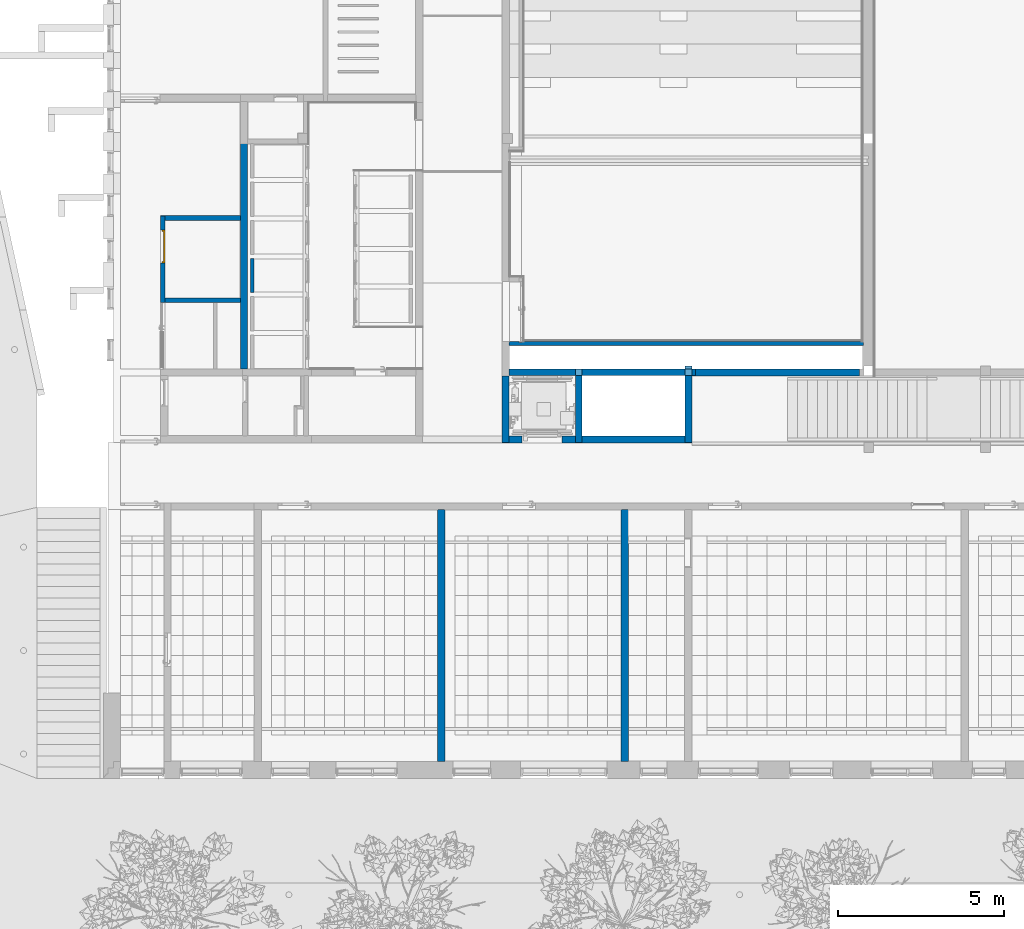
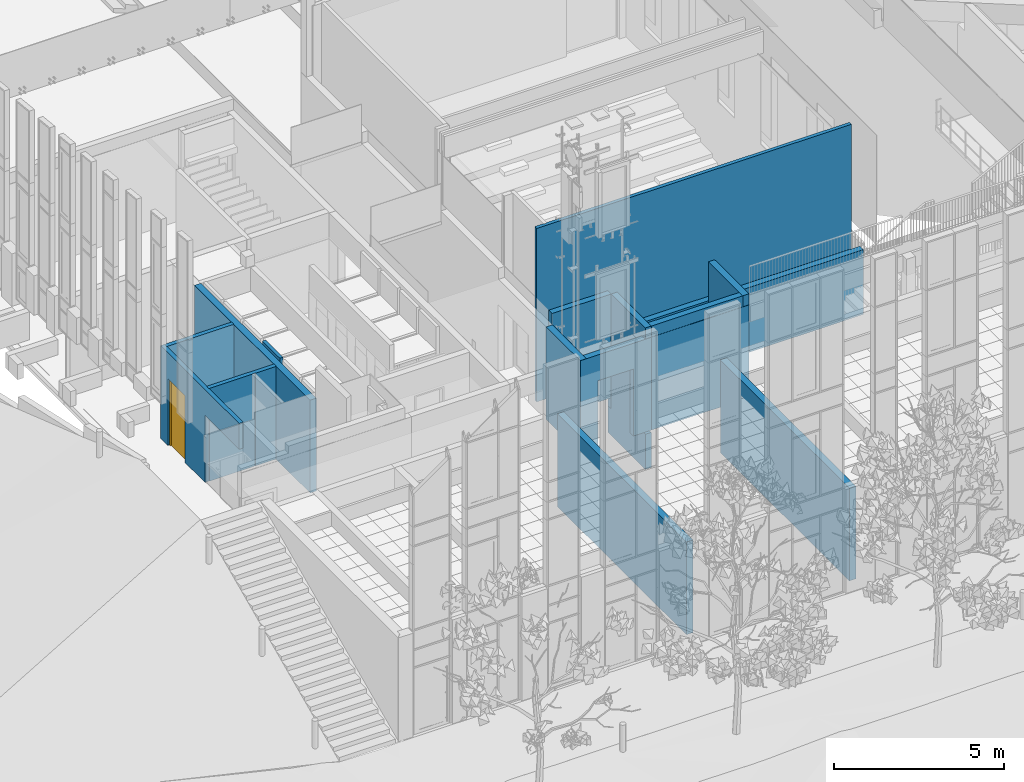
# One storey, part 118 of 246: 16 walls, 1 door, 3 openings.
"""IFC2X3 building model written with IfcOpenShell, lengths in millimetres."""

import ifcopenshell
import ifcopenshell.guid

model = None  # the IFC model being written
_history = None  # IfcOwnerHistory: only IFC2X3 demands one
_inside = {}  # id of a spatial element -> (the spatial element, [elements in it])
_under = {}  # id of a project, library or spatial element -> (it, [spatial elements below it])
_declared = {}  # id of a project -> (the project, [libraries it declares])
_typed = {}  # id of a type object -> (the type object, [elements of that type])
_made_of = {}  # id of a material, layer set ... -> (it, [elements and type objects made of it])


def new_model(schema):
    """Start an empty IFC model of exactly this schema.

    Asked for "IFC4X3", IfcOpenShell would pick the latest addendum, in which some entities
    have other attributes; the version numbers below select the first issue.
    IFC2X3 requires an IfcOwnerHistory on every rooted entity: one is made here for all.
    """
    global model, _history
    if schema == "IFC4X3":
        model = ifcopenshell.file(schema_version=(4, 3, 0, 0))
    else:
        model = ifcopenshell.file(schema=schema)
    _inside.clear()
    _under.clear()
    _declared.clear()
    _typed.clear()
    _made_of.clear()
    _history = None
    if model.schema == "IFC2X3":
        org = make("IfcOrganization", Name="unknown")
        user = make(
            "IfcPersonAndOrganization",
            ThePerson=make("IfcPerson", FamilyName="unknown"),
            TheOrganization=org,
        )
        app = make(
            "IfcApplication",
            ApplicationDeveloper=org,
            Version="unknown",
            ApplicationFullName="unknown",
            ApplicationIdentifier="unknown",
        )
        _history = make(
            "IfcOwnerHistory",
            OwningUser=user,
            OwningApplication=app,
            ChangeAction="ADDED",
            CreationDate=0,
        )
    return model


def make(cls, **values):
    """One entity of the class cls with the attributes given. An attribute that is None is left unset."""
    return model.create_entity(
        cls, **{name: value for name, value in values.items() if value is not None}
    )


def entity(cls, *values):
    """Any entity or typed value of the class cls, its attributes in the order of the schema. None: left unset."""
    e = model.create_entity(cls)
    for i, value in enumerate(values):
        if value is not None:
            e[i] = value
    return e


def rooted(cls, **values):
    """An entity with a GlobalId (a new one), such as an element, a storey or a relation."""
    return make(cls, GlobalId=ifcopenshell.guid.new(), OwnerHistory=_history, **values)


def si_unit(unit_type, name, prefix=None):
    """IfcSIUnit, for example si_unit("LENGTHUNIT", "METRE", prefix="MILLI")."""
    return make("IfcSIUnit", UnitType=unit_type, Prefix=prefix, Name=name)


def converted_unit(unit_type, name, factor, base, dimensions=None, offset=None):
    """IfcConversionBasedUnit, such as the inch: factor (a typed value) times the base unit."""
    return make(
        "IfcConversionBasedUnit"
        if offset is None
        else "IfcConversionBasedUnitWithOffset",
        ConversionOffset=offset,
        Dimensions=None
        if dimensions is None
        else entity("IfcDimensionalExponents", *dimensions),
        UnitType=unit_type,
        Name=name,
        ConversionFactor=make(
            "IfcMeasureWithUnit", ValueComponent=factor, UnitComponent=base
        ),
    )


def derived_unit(unit_type, elements):
    """IfcDerivedUnit: a product of units, each with its exponent."""
    return make(
        "IfcDerivedUnit",
        Elements=[
            make("IfcDerivedUnitElement", Unit=unit, Exponent=power)
            for unit, power in elements
        ],
        UnitType=unit_type,
    )


def money_unit(currency):
    """IfcMonetaryUnit."""
    return make("IfcMonetaryUnit", Currency=currency)


def assignment(units):
    """IfcUnitAssignment: the units of a project."""
    return None if units is None else make("IfcUnitAssignment", Units=units)


def point(xyz):
    """IfcCartesianPoint."""
    return None if xyz is None else make("IfcCartesianPoint", Coordinates=xyz)


def direction(xyz):
    """IfcDirection."""
    return None if xyz is None else make("IfcDirection", DirectionRatios=xyz)


def frame(location, z_axis=None, x_axis=None):
    """IfcAxis2Placement3D, a coordinate frame: its origin and axes. An axis left out is left unset."""
    return make(
        "IfcAxis2Placement3D",
        Location=point(location),
        Axis=direction(z_axis),
        RefDirection=direction(x_axis),
    )


def origin_with_axes():
    """The frame at (0, 0, 0) with the z axis (0, 0, 1) and the x axis (1, 0, 0) written out."""
    return frame((0.0, 0.0, 0.0), z_axis=(0.0, 0.0, 1.0), x_axis=(1.0, 0.0, 0.0))


def place(relative_to, where):
    """IfcLocalPlacement: puts the frame where relative to a parent placement (None: the world)."""
    return make(
        "IfcLocalPlacement", PlacementRelTo=relative_to, RelativePlacement=where
    )


def context(
    kind, dimensions, precision=None, world=None, true_north=None, identifier=None
):
    """IfcGeometricRepresentationContext, for example the 3D "Model" context."""
    return make(
        "IfcGeometricRepresentationContext",
        ContextIdentifier=identifier,
        ContextType=kind,
        CoordinateSpaceDimension=dimensions,
        Precision=precision,
        WorldCoordinateSystem=world,
        TrueNorth=true_north,
    )


def subcontext(parent, identifier, kind, view, scale=None):
    """IfcGeometricRepresentationSubContext, for example "Body" below "Model"."""
    return make(
        "IfcGeometricRepresentationSubContext",
        ContextIdentifier=identifier,
        ContextType=kind,
        ParentContext=parent,
        TargetScale=scale,
        TargetView=view,
    )


def project(units=None, contexts=None):
    """IfcProject with its units and contexts."""
    return rooted(
        "IfcProject",
        Name="project",
        RepresentationContexts=contexts,
        UnitsInContext=assignment(units),
    )


def spatial(cls, under=None, at=None, **own):
    """A site, building, storey or space (cls), placed at a placement, below another one or the project."""
    s = rooted(cls, ObjectPlacement=at, **own)
    if under is not None:
        _under.setdefault(under.id(), (under, []))[1].append(s)
    return s


def faces_of(points, faces, orient=None, outer=None):
    """IfcFace entities. A face is a list of loops; a loop is a list of indices into points, from 0.

    orient and outer hold one flag for each loop. By default every Orientation is true, the
    first loop of a face is its IfcFaceOuterBound and the others are IfcFaceBound.
    """
    made = []
    for i, loops in enumerate(faces):
        bounds = []
        for j, loop in enumerate(loops):
            is_outer = j == 0 if outer is None else outer[i][j]
            bounds.append(
                make(
                    "IfcFaceOuterBound" if is_outer else "IfcFaceBound",
                    Bound=make("IfcPolyLoop", Polygon=[points[k] for k in loop]),
                    Orientation=True if orient is None else orient[i][j],
                )
            )
        made.append(make("IfcFace", Bounds=bounds))
    return made


def faceted_brep(points, faces, orient=None, outer=None, voids=None):
    """IfcFacetedBrep: a solid bounded by flat faces; with voids (closed shells), ...WithVoids."""
    shared = [point(p) for p in points]
    hull = make("IfcClosedShell", CfsFaces=faces_of(shared, faces, orient, outer))
    if voids is None:
        return make("IfcFacetedBrep", Outer=hull)
    return make(
        "IfcFacetedBrepWithVoids",
        Outer=hull,
        Voids=[
            make(cls, CfsFaces=faces_of(shared, fs, o, b)) for cls, fs, o, b in voids
        ],
    )


def shape(context_of_items, identifier, shape_type, items):
    """IfcShapeRepresentation: the items that make up one representation, for example the "Body"."""
    return make(
        "IfcShapeRepresentation",
        ContextOfItems=context_of_items,
        RepresentationIdentifier=identifier,
        RepresentationType=shape_type,
        Items=items,
    )


def material(Name=None, Category=None):
    """IfcMaterial."""
    return make("IfcMaterial", Name=Name, Category=Category)


def material_list(materials):
    """IfcMaterialList."""
    return make("IfcMaterialList", Materials=materials)


def made_of(thing, what):
    """Note that an element or type object is made of a material, layer set ...; save() writes the relation."""
    if what is not None:
        _made_of.setdefault(what.id(), (what, []))[1].append(thing)
    return thing


def type_object(cls, material=None, **own):
    """A type object (cls), such as IfcWallType, which elements share."""
    return made_of(rooted(cls, **own), material)


def element(
    cls,
    number,
    at=None,
    inside=None,
    cuts=None,
    type_object=None,
    material=None,
    context=None,
    identifier="Body",
    shape_type=None,
    held_by="IfcProductDefinitionShape",
    body=None,
    shapes=None,
    **own,
):
    """One element of the class cls, such as IfcWall. Its Tag is "e" and its number.

    at: its placement. inside: the storey or other place that contains it. cuts: it is an
    opening in that element (IfcRelVoidsElement). A single representation is given by context,
    identifier, shape_type and body (its items); several are given by shapes. held_by: the class
    of the entity that holds the representations. save() writes the other relations.
    """
    e = rooted(cls, Tag="e%d" % number, ObjectPlacement=at, **own)
    if body is not None:
        shapes = [shape(context, identifier, shape_type, body)]
    if shapes is not None:
        e.Representation = make(held_by, Representations=shapes)
    if inside is not None:
        _inside.setdefault(inside.id(), (inside, []))[1].append(e)
    if cuts is not None:
        rooted(
            "IfcRelVoidsElement", RelatingBuildingElement=cuts, RelatedOpeningElement=e
        )
    if type_object is not None:
        _typed.setdefault(type_object.id(), (type_object, []))[1].append(e)
    return made_of(e, material)


def fill(opening, filler):
    """IfcRelFillsElement: the door or window that sits in an opening."""
    return rooted(
        "IfcRelFillsElement",
        RelatingOpeningElement=opening,
        RelatedBuildingElement=filler,
    )


def aggregate(whole, parts):
    """IfcRelAggregates: a whole, such as a stair, and the parts it consists of."""
    return rooted("IfcRelAggregates", RelatingObject=whole, RelatedObjects=parts)


def save(model, path):
    """Write the relations noted so far, then the file.

    IfcRelAggregates (storeys below a building ...), IfcRelContainedInSpatialStructure (elements
    in a storey), IfcRelDefinesByType, IfcRelAssociatesMaterial and IfcRelDeclares: one each for
    every whole, place, type object, material and project.
    """
    for whole, parts in _under.values():
        aggregate(whole, parts)
    for where, things in _inside.values():
        rooted(
            "IfcRelContainedInSpatialStructure",
            RelatedElements=things,
            RelatingStructure=where,
        )
    for kind, things in _typed.values():
        rooted("IfcRelDefinesByType", RelatedObjects=things, RelatingType=kind)
    for what, things in _made_of.values():
        rooted("IfcRelAssociatesMaterial", RelatedObjects=things, RelatingMaterial=what)
    for by, libraries in _declared.values():
        rooted("IfcRelDeclares", RelatingContext=by, RelatedDefinitions=libraries)
    model.write(path)


model = new_model("IFC2X3")

# Units and contexts
model_context = context("Model", 3, precision=0.01, world=origin_with_axes(), true_north=direction((0.0, 1.0)))
body_context = subcontext(model_context, "Body", "Model", "MODEL_VIEW")
ifc_project = project(units=[si_unit("LENGTHUNIT", "METRE", prefix="MILLI"), si_unit("AREAUNIT", "SQUARE_METRE"), si_unit("VOLUMEUNIT", "CUBIC_METRE"), converted_unit("PLANEANGLEUNIT", "DEGREE", entity("IfcPlaneAngleMeasure", 0.0174532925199), si_unit("PLANEANGLEUNIT", "RADIAN"), dimensions=[0, 0, 0, 0, 0, 0, 0]), si_unit("SOLIDANGLEUNIT", "STERADIAN"), money_unit("EUR"), converted_unit("TIMEUNIT", "Year", entity("IfcTimeMeasure", 31556926.0), si_unit("TIMEUNIT", "SECOND"), dimensions=[0, 0, 1, 0, 0, 0, 0]), si_unit("MASSUNIT", "GRAM", prefix="KILO"), si_unit("THERMODYNAMICTEMPERATUREUNIT", "DEGREE_CELSIUS"), si_unit("LUMINOUSINTENSITYUNIT", "LUMEN"), si_unit("ENERGYUNIT", "JOULE", prefix="MEGA"), derived_unit("THERMALCONDUCTANCEUNIT", [(si_unit("POWERUNIT", "WATT"), 1), (si_unit("LENGTHUNIT", "METRE"), -1), (si_unit("THERMODYNAMICTEMPERATUREUNIT", "KELVIN"), -1)]), derived_unit("SPECIFICHEATCAPACITYUNIT", [(si_unit("ENERGYUNIT", "JOULE"), 1), (si_unit("MASSUNIT", "GRAM", prefix="KILO"), -1), (si_unit("THERMODYNAMICTEMPERATUREUNIT", "KELVIN"), -1)]), derived_unit("MASSDENSITYUNIT", [(si_unit("MASSUNIT", "GRAM", prefix="KILO"), 1), (si_unit("VOLUMEUNIT", "CUBIC_METRE"), -1)])], contexts=[model_context])

# Site, building, storey
site_placement = place(None, origin_with_axes())
site = spatial("IfcSite", under=ifc_project, at=site_placement, Name="L.Koidula tn 11b", CompositionType="ELEMENT")
building_placement = place(site_placement, origin_with_axes())
building = spatial("IfcBuilding", under=site, at=building_placement, Name="Rakvere Riigigümnaasium", CompositionType="ELEMENT")
storey_placement = place(building_placement, origin_with_axes())
storey = spatial("IfcBuildingStorey", under=building, at=storey_placement, Name="1.korrus 0,00", CompositionType="ELEMENT", Elevation=0.0)

# Walls
ifc_material_1 = material(Name="Betoon element / plaat")
wall_type_1 = type_object("IfcWallType", Name="SS-01 200", PredefinedType="NOTDEFINED")
wall_1_placement = place(storey_placement, frame((52499.9999937, 17110.4555095, -395.0), z_axis=(0.0, 0.0, 1.0), x_axis=(-1.0, 0.0, 0.0)))
element("IfcWall", 1, at=wall_1_placement, inside=storey, type_object=wall_type_1, material=ifc_material_1, Name="Sisesein", context=body_context, shape_type="Brep", body=[
    faceted_brep([(0.0, -200.0, 395.0), (0.0, 0.0, 394.999999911), (0.0, 0.0, 0.0), (0.0, -200.000013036, 0.0), (-210.0, -200.0, 395.0), (-210.0, 0.0, 394.999999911), (3299.99999988, 0.0, 0.0), (-310.0, 0.0, 394.999999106), (-310.0, 0.0, 2720.0), (3299.99999988, 0.0, 2720.0), (3299.99999988, -200.0, 0.0), (3299.99999988, -200.0, 2720.0), (-310.0, -200.0, 2720.0), (-310.0, -200.0, 394.999999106)], [[[0, 1, 2, 3]], [[4, 5, 1, 0]], [[6, 2, 1, 5, 7, 8, 9]], [[10, 3, 2, 6]], [[0, 3, 10, 11, 12, 13, 4]], [[7, 5, 4, 13]], [[12, 8, 7, 13]], [[11, 9, 8, 12]], [[10, 6, 9, 11]]]),
])
wall_2_placement = place(storey_placement, frame((49399.9999937, 15100.4785302, -1350.0), z_axis=(0.0, 0.0, 1.0), x_axis=(0.0, 1.0, 0.0)))
element("IfcWall", 2, at=wall_2_placement, inside=storey, type_object=wall_type_1, material=ifc_material_1, Name="Sisesein", context=body_context, shape_type="Brep", body=[
    faceted_brep([(200.0, 0.0, 1340.0), (200.0, 0.0, 1260.0), (0.0, 0.0, 1260.0), (0.0, 0.0, 0.0), (2209.97698206, 0.0, 0.0), (2209.97698153, 0.0, 955.0), (2009.97697926, 0.0, 955.0), (2009.97697926, 0.0, 5070.0), (0.0, 0.0, 5070.0), (0.0, 0.0, 4940.0), (0.0, 0.0, 1350.0), (0.0, 0.0, 1340.0), (200.0, 200.0, 1260.0), (200.0, 200.0, 1340.0), (0.0, 200.0, 1260.0), (0.0, 200.0, 0.0), (2209.97698206, 200.0, 0.0), (2209.97698153, 199.999999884, 955.0), (2009.97697926, 199.999999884, 955.0), (2009.97697926, 199.999999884, 1350.0), (2009.97697926, 199.999999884, 5070.0), (0.0, 200.0, 5070.0), (0.0, 200.0, 1350.0), (0.0, 200.0, 1340.0), (0.0, 200.0, 4940.0)], [[[0, 1, 2, 3, 4, 5, 6, 7, 8, 9, 10, 11]], [[12, 1, 0, 13]], [[14, 2, 1, 12]], [[3, 2, 14, 15]], [[15, 16, 4, 3]], [[4, 16, 17, 5]], [[17, 18, 6, 5]], [[6, 18, 19, 20, 7]], [[21, 8, 7, 20]], [[22, 23, 11, 10, 9, 8, 21, 24]], [[13, 0, 11, 23]], [[12, 13, 23, 22, 24, 21, 20, 19, 18, 17, 16, 15, 14]]]),
])
wall_3_placement = place(storey_placement, frame((49199.9999937, 17110.4555095, 0.0), z_axis=(0.0, 0.0, 1.0), x_axis=(-1.0, 0.0, 0.0)))
element("IfcWall", 3, at=wall_3_placement, inside=storey, type_object=wall_type_1, material=ifc_material_1, Name="Sisesein", context=body_context, shape_type="Brep", body=[
    faceted_brep([(0.0, 0.0, 0.0), (2000.00000019, 0.0, 0.0), (2000.00000019, -200.0, 0.0), (0.0, -200.0, 0.0), (0.0, 0.0, 3720.0), (2000.00000019, 0.0, 3720.0), (2000.00000019, -200.0, 3720.0), (0.0, -200.0, 3720.0)], [[[0, 1, 2, 3]], [[4, 5, 1, 0]], [[6, 2, 1, 5]], [[3, 2, 6, 7]], [[7, 4, 0, 3]], [[7, 6, 5, 4]]]),
])
ifc_material_2 = material(Name="mineraalvill+karkass")
ifc_material_3 = material(Name="Kipsplaat")
ifc_material_list_1 = material_list([ifc_material_2, ifc_material_3, ifc_material_3])
wall_type_2 = type_object("IfcWallType", Name="SS-06 121", PredefinedType="NOTDEFINED")
wall_4_placement = place(storey_placement, frame((58180.0348101, 18140.4555095, 0.0), z_axis=(0.0, 0.0, 1.0), x_axis=(-1.0, 0.0, 0.0)))
element("IfcWall", 4, at=wall_4_placement, inside=storey, type_object=wall_type_2, material=ifc_material_list_1, Name="Sisesein", context=body_context, shape_type="Brep", body=[
    faceted_brep([(10980.0348166, 26.0000006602, 6215.0), (310.0, 26.0000006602, 6215.0), (310.0, 26.0, 0.0), (10980.0348166, 26.0, 0.0), (310.0, 120.999998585, 6215.0), (10980.0348166, 120.999998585, 6215.0), (310.0, 121.0, 0.0), (10980.0348166, 121.0, 0.0)], [[[0, 1, 2, 3]], [[4, 1, 0, 5]], [[1, 4, 6, 2]], [[3, 2, 6, 7]], [[5, 0, 3, 7]], [[4, 5, 7, 6]]]),
    faceted_brep([(10970.0348166, 13.0, 6215.0), (10685.0348166, 13.0, 6215.0), (10685.0348166, 13.0, 0.0), (10970.0348166, 13.0, 0.0), (10685.0348166, 26.0000006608, 6215.0), (10970.0348166, 26.0000006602, 6215.0), (10685.0348166, 26.0, 0.0), (10970.0348166, 26.0, 0.0)], [[[0, 1, 2, 3]], [[4, 1, 0, 5]], [[1, 4, 6, 2]], [[3, 2, 6, 7]], [[5, 0, 3, 7]], [[4, 5, 7, 6]]]),
    faceted_brep([(10590.0348166, 13.0, 6215.0), (310.0, 13.0, 6215.0), (310.0, 13.0, 0.0), (10590.0348166, 13.0, 0.0), (310.0, 26.0000006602, 6215.0), (10590.0348166, 26.0000006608, 6215.0), (310.0, 26.0, 0.0), (10590.0348166, 26.0, 0.0)], [[[0, 1, 2, 3]], [[4, 1, 0, 5]], [[1, 4, 6, 2]], [[3, 2, 6, 7]], [[5, 0, 3, 7]], [[4, 5, 7, 6]]]),
    faceted_brep([(10970.0348166, 0.0, 6215.0), (10685.0348166, 0.0, 6215.0), (10685.0348166, 0.0, 0.0), (10970.0348166, 0.0, 0.0), (10685.0348166, 13.0, 6215.0), (10970.0348166, 13.0, 6215.0), (10685.0348166, 13.0, 0.0), (10970.0348166, 13.0, 0.0)], [[[0, 1, 2, 3]], [[4, 1, 0, 5]], [[1, 4, 6, 2]], [[3, 2, 6, 7]], [[5, 0, 3, 7]], [[4, 5, 7, 6]]]),
    faceted_brep([(10577.0348166, 0.0, 6215.0), (335.0, 0.0, 6215.0), (335.0, 0.0, 0.0), (10577.0348166, 0.0, 0.0), (335.0, 13.0, 6215.0), (10577.0348166, 13.0, 6215.0), (335.0, 13.0, 0.0), (10577.0348166, 13.0, 0.0)], [[[0, 1, 2, 3]], [[4, 1, 0, 5]], [[1, 4, 6, 2]], [[3, 2, 6, 7]], [[5, 0, 3, 7]], [[4, 5, 7, 6]]]),
])
ifc_material_4 = material(Name="siseviimistlus-seinad")
ifc_material_list_2 = material_list([ifc_material_4, ifc_material_1, ifc_material_4])
wall_type_3 = type_object("IfcWallType", Name="SS-01-2 220", PredefinedType="NOTDEFINED")
wall_5_placement = place(storey_placement, frame((45059.9999972, 13280.4405564, 0.0), z_axis=(0.0, 0.0, 1.0), x_axis=(0.0, -1.0, 0.0)))
element("IfcWall", 5, at=wall_5_placement, inside=storey, type_object=wall_type_3, material=ifc_material_list_2, Name="Sisesein", context=body_context, shape_type="Brep", body=[
    faceted_brep([(209.997414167, 200.0, 3325.0), (209.997411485, 210.0, 3325.0), (209.997411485, 210.0, 0.0), (209.997414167, 200.0, 0.0), (7779.98501735, 210.0, 3325.0), (7779.98501735, 200.0, 3325.0), (7779.98501754, 210.0, -2.44095943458e-06), (7779.98501754, 200.0, -2.43860864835e-06)], [[[0, 1, 2, 3]], [[4, 1, 0, 5]], [[1, 4, 6, 2]], [[2, 6, 7, 3]], [[5, 0, 3, 7]], [[4, 5, 7, 6]]]),
    faceted_brep([(199.997467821, 0.0, 3325.0), (199.997414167, 200.0, 3325.0), (199.997414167, 200.0, 0.0), (199.997467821, 0.0, 0.0), (7779.98501735, 200.0, 3325.0), (7779.98501735, 0.0, 3325.0), (7779.98501754, 200.0, -2.43860887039e-06), (7779.98501754, 0.0, -2.3915949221e-06)], [[[0, 1, 2, 3]], [[4, 1, 0, 5]], [[1, 4, 6, 2]], [[2, 6, 7, 3]], [[5, 0, 3, 7]], [[4, 5, 7, 6]]]),
    faceted_brep([(209.997470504, -10.0, 3325.0), (209.997467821, 0.0, 3325.0), (209.997467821, 0.0, 0.0), (209.997470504, -10.0, 0.0), (7779.98501735, 0.0, 3325.0), (7779.98501735, -10.0, 3325.0), (7779.98501754, 0.0, -2.3915949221e-06), (7779.98501754, -10.0, -2.38924413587e-06)], [[[0, 1, 2, 3]], [[4, 1, 0, 5]], [[1, 4, 6, 2]], [[2, 6, 7, 3]], [[5, 0, 3, 7]], [[4, 5, 7, 6]]]),
])
wall_6_placement = place(storey_placement, frame((50579.9830772, 13280.4445694, 0.0), z_axis=(0.0, 0.0, 1.0), x_axis=(0.0, -1.0, 0.0)))
element("IfcWall", 6, at=wall_6_placement, inside=storey, type_object=wall_type_3, material=ifc_material_list_2, Name="Sisesein", context=body_context, shape_type="Brep", body=[
    faceted_brep([(209.999946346, 200.0, 3325.0), (209.999943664, 210.0, 3325.0), (209.999943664, 210.0, 0.0), (209.999946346, 200.0, 0.0), (7779.98903026, 210.0, 3325.0), (7779.98903026, 200.0, 3325.0), (7779.98903056, 210.0, -3.73853792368e-06), (7779.98903056, 200.0, -3.73618713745e-06)], [[[0, 1, 2, 3]], [[4, 1, 0, 5]], [[1, 4, 6, 2]], [[2, 6, 7, 3]], [[5, 0, 3, 7]], [[4, 5, 7, 6]]]),
    faceted_brep([(199.990197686, 0.0, 3325.0), (199.990197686, 200.0, 3325.0), (199.999946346, 200.0, 0.0), (200.0, 0.0, 0.0), (7779.98903026, 200.0, 3325.0), (7779.98903026, 0.0, 3325.0), (7779.98903056, 200.0, -3.73618735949e-06), (7779.98903056, 0.0, -3.6891734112e-06)], [[[0, 1, 2, 3]], [[4, 1, 0, 5]], [[1, 4, 6, 2]], [[2, 6, 7, 3]], [[5, 0, 3, 7]], [[4, 5, 7, 6]]]),
    faceted_brep([(210.000002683, -10.0, 3325.0), (210.0, 0.0, 3325.0), (210.0, 0.0, 0.0), (210.000002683, -10.0, 0.0), (7779.98903026, 0.0, 3325.0), (7779.98903026, -10.0, 3325.0), (7779.98903056, 0.0, -3.6891734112e-06), (7779.98903056, -10.0, -3.68682262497e-06)], [[[0, 1, 2, 3]], [[4, 1, 0, 5]], [[1, 4, 6, 2]], [[2, 6, 7, 3]], [[5, 0, 3, 7]], [[4, 5, 7, 6]]]),
])
ifc_material_list_3 = material_list([ifc_material_1, ifc_material_4])
wall_type_4 = type_object("IfcWallType", Name="SS-01-1 210", PredefinedType="NOTDEFINED")
wall_7_placement = place(storey_placement, frame((52499.9999937, 15300.4785302, -170.0), z_axis=(0.0, 0.0, 1.0), x_axis=(0.0, 1.0, 0.0)))
element("IfcWall", 7, at=wall_7_placement, inside=storey, type_object=wall_type_4, material=ifc_material_list_3, Name="Sisesein", context=body_context, shape_type="Brep", body=[
    faceted_brep([(1809.97697926, -200.000000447, 160.0), (1809.97697926, -200.000000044, 80.0), (2009.9769923, -200.0, 80.0), (2009.97697926, -200.0, 170.0), (1809.97697926, -200.000000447, 170.0), (1809.97697926, -200.0, 3890.0), (-200.0, -200.0, 3890.0), (-200.0, -200.000000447, 170.0), (0.0, -200.000000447, 169.999999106), (0.0, -200.000000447, 160.0), (1809.97697926, 0.0, 160.0), (1809.97697926, 0.0, 80.0), (2009.9769923, 0.0, 80.0), (2009.97697926, 0.0, 170.0), (1809.97697926, 0.0, 170.0), (1809.97697926, -7.90386422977e-07, 3890.0), (-200.0, -3.91509047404e-09, 3890.0), (-200.0, 0.0, 170.0), (0.0, 0.0, 169.999999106), (0.0, 0.0, 160.0)], [[[0, 1, 2, 3, 4, 5, 6, 7, 8, 9]], [[1, 0, 10, 11]], [[1, 11, 12, 2]], [[12, 13, 3, 2]], [[14, 4, 3, 13]], [[14, 15, 5, 4]], [[15, 16, 6, 5]], [[17, 7, 6, 16]], [[8, 7, 17, 18]], [[19, 9, 8, 18]], [[0, 9, 19, 10]], [[10, 19, 18, 17, 16, 15, 14, 13, 12, 11]]]),
    faceted_brep([(2009.9769923, 0.0, 0.0), (2009.9769923, 0.0, 80.0), (2109.97697926, 0.0, 80.0), (2109.97697926, 0.0, 0.0), (2009.9769923, -200.0, 0.0), (2009.9769923, -200.0, 80.0), (2109.97697926, -200.0, 80.0), (2109.97697926, -200.0, 0.0)], [[[0, 1, 2, 3]], [[4, 5, 1, 0]], [[2, 1, 5, 6]], [[7, 3, 2, 6]], [[7, 4, 0, 3]], [[6, 5, 4, 7]]]),
    faceted_brep([(0.0, -210.0, 170.0), (1799.97697926, -210.0, 170.0), (1799.97697926, -210.0, 3890.0), (-200.0, -210.0, 3890.0), (-200.0, -210.0, 3495.0), (-210.0, -210.0, 3495.0), (-210.0, -210.0, 169.999999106), (0.0, -200.000000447, 170.0), (1799.97697926, -200.000000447, 170.0), (-210.0, -200.000000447, 169.999999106), (1799.97697926, -200.0, 3890.0), (-200.0, -200.0, 3890.0), (-200.0, -200.0, 3495.0), (-210.0, -200.000000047, 3495.0)], [[[0, 1, 2, 3, 4, 5, 6]], [[7, 8, 1, 0, 6, 9]], [[1, 8, 10, 2]], [[11, 3, 2, 10]], [[11, 12, 4, 3]], [[5, 4, 12, 13]], [[5, 13, 9, 6]], [[8, 7, 9, 13, 12, 11, 10]]]),
    faceted_brep([(2009.9769923, -200.0, 0.0), (2009.9769923, -200.0, 80.0), (2109.97697926, -200.0, 80.0), (2109.97697926, -200.0, 0.0), (2009.9769923, -210.0, 0.0), (2009.9769923, -210.0, 80.0), (2109.97697926, -210.0, 80.0), (2109.97697926, -210.0, 0.0)], [[[0, 1, 2, 3]], [[4, 5, 1, 0]], [[2, 1, 5, 6]], [[7, 3, 2, 6]], [[7, 4, 0, 3]], [[6, 5, 4, 7]]]),
    faceted_brep([(1809.97697926, -200.000000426, 170.0), (1809.97697926, -210.0, 170.0), (2009.97697926, -210.0, 170.0), (2009.97697926, -200.0, 170.0), (1809.97697926, -200.000000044, 80.0), (1809.97697926, -210.0, 80.0), (2009.9769923, -210.0, 80.0), (2009.9769923, -200.0, 80.0)], [[[0, 1, 2, 3]], [[1, 0, 4, 5]], [[1, 5, 6, 2]], [[7, 3, 2, 6]], [[0, 3, 7, 4]], [[5, 4, 7, 6]]]),
])
ifc_material_list_4 = material_list([ifc_material_4, ifc_material_1])
wall_8_placement = place(storey_placement, frame((58180.0348101, 17110.4555095, 0.0), z_axis=(0.0, 0.0, 1.0), x_axis=(-1.0, 0.0, 0.0)))
element("IfcWall", 8, at=wall_8_placement, inside=storey, type_object=wall_type_4, material=ifc_material_list_4, Name="Sisesein", context=body_context, shape_type="Brep", body=[
    faceted_brep([(435.0, 9.99998696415, 2325.0), (435.0, 9.99998696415, 0.0), (435.0, -1.25888135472e-05, 0.0), (435.0, -1.30358479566e-05, 2325.0), (5480.03481643, 10.0, 2325.00000006), (5480.03481643, 10.0, 0.0), (5480.03481643, 0.0, 0.0), (5480.03481643, 0.0, 2325.00000006)], [[[0, 1, 2, 3]], [[1, 0, 4, 5]], [[2, 1, 5, 6]], [[2, 6, 7, 3]], [[0, 3, 7, 4]], [[7, 6, 5, 4]]]),
    faceted_brep([(435.0, -1.30358479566e-05, 2325.0), (435.0, -1.25888135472e-05, 0.0), (435.0, -200.000013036, 0.0), (435.0, -200.000013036, 2325.0), (5370.03481643, 0.0, 2325.0), (5370.03481643, 0.0, 0.0), (5370.03481643, -200.0, 0.0), (5370.03481643, -200.0, 2325.0)], [[[0, 1, 2, 3]], [[1, 0, 4, 5]], [[2, 1, 5, 6]], [[2, 6, 7, 3]], [[7, 4, 0, 3]], [[4, 7, 6, 5]]]),
])

# Wall, opening
wall_9_placement = place(storey_placement, frame((49399.9999937, 15100.4785302, 0.0), z_axis=(0.0, 0.0, 1.0), x_axis=(-1.0, 0.0, 0.0)))
wall_9 = element("IfcWall", 9, at=wall_9_placement, inside=storey, type_object=wall_type_4, material=ifc_material_list_4, Name="Sisesein", context=body_context, shape_type="Brep", body=[
    faceted_brep([(1810.0, 0.0, 2400.0), (1810.0, 0.0, 0.0), (2399.99999995, 0.0, 0.0), (2399.99999995, 0.0, 3325.0), (200.0, 0.0, 3325.0), (0.0, 0.0, 3325.0), (0.0, 0.0, 0.0), (610.0, 0.0, 0.0), (610.0, 0.0, 2400.0), (1810.0, 10.0, 2400.0), (1810.0, 10.0, 0.0), (2399.99999995, 10.0, 0.0), (2399.99999995, 10.0, 3325.0), (0.0, 10.0, 3325.0), (0.0, 10.0, 0.0), (610.0, 10.0, 0.0), (610.0, 10.0, 2400.0)], [[[0, 1, 2, 3, 4, 5, 6, 7, 8]], [[1, 0, 9, 10]], [[1, 10, 11, 2]], [[3, 2, 11, 12]], [[4, 3, 12, 13, 5]], [[13, 14, 6, 5]], [[15, 7, 6, 14]], [[8, 7, 15, 16]], [[0, 8, 16, 9]], [[16, 15, 14, 13, 12, 11, 10, 9]]]),
    faceted_brep([(1810.0, -200.0, 2400.0), (1810.0, -200.0, 0.0), (2199.99999995, -200.0, 0.0), (2199.99999991, -200.0, 3325.0), (200.0, -200.0, 3325.0), (200.0, -200.0, 0.0), (610.0, -200.0, 0.0), (610.0, -200.0, 2400.0), (1810.0, 0.0, 2400.0), (1810.0, 0.0, 0.0), (2199.99999995, 0.0, 0.0), (2199.99999995, 0.0, 3325.0), (200.0, 0.0, 3325.0), (200.0, 0.0, 0.0), (610.0, 0.0, 0.0), (610.0, 0.0, 2400.0)], [[[0, 1, 2, 3, 4, 5, 6, 7]], [[1, 0, 8, 9]], [[1, 9, 10, 2]], [[3, 2, 10, 11]], [[4, 3, 11, 12]], [[12, 13, 5, 4]], [[14, 6, 5, 13]], [[7, 6, 14, 15]], [[0, 7, 15, 8]], [[15, 14, 13, 12, 11, 10, 9, 8]]]),
])
opening_1_placement = place(wall_9_placement, frame((1210.0, 0.0, 0.0), z_axis=(0.0, 0.0, 1.0), x_axis=(1.0, 0.0, 0.0)))
element("IfcOpeningElement", 10, at=opening_1_placement, cuts=wall_9, Name="ava", context=body_context, shape_type="Brep", body=[
    faceted_brep([(600.0, 210.0, 0.0), (600.0, 210.0, 2400.0), (600.0, -420.0, 2400.0), (600.0, -420.0, 0.0), (-600.0, 210.0, 0.0), (-600.0, 210.0, 2400.0), (-600.0, -420.0, 2400.0), (-600.0, -420.0, 0.0)], [[[0, 1, 2, 3]], [[0, 4, 5, 1]], [[1, 5, 6, 2]], [[3, 2, 6, 7]], [[4, 0, 3, 7]], [[5, 4, 7, 6]]]),
])

# Walls
wall_10_placement = place(storey_placement, frame((46999.9999937, 15100.4785302, 0.0), z_axis=(0.0, 0.0, 1.0), x_axis=(0.0, 1.0, 0.0)))
element("IfcWall", 11, at=wall_10_placement, inside=storey, type_object=wall_type_4, material=ifc_material_list_4, Name="Sisesein", context=body_context, shape_type="Brep", body=[
    faceted_brep([(1999.97697926, 10.0, 3325.0), (1999.97697926, 0.0, 3325.0), (1999.97697926, 0.0, 0.0), (1999.97697926, 10.0, 0.0), (-9.99997854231, 4.14040357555e-07, 3325.0), (-9.99997854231, 10.0, 3325.0), (-9.99997854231, 0.0, 0.0), (-9.99997854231, 10.0, 0.0)], [[[0, 1, 2, 3]], [[4, 1, 0, 5]], [[1, 4, 6, 2]], [[2, 6, 7, 3]], [[5, 0, 3, 7]], [[4, 5, 7, 6]]]),
    faceted_brep([(1999.97697926, 0.0, 3325.0), (1999.97697926, -200.000000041, 3325.0), (1999.97697926, -200.0, 0.0), (1999.97697926, 0.0, 0.0), (200.0, -200.000000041, 3325.0), (0.0, 3.99566602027e-07, 3325.0), (0.0, -200.0, 3325.0), (0.0, -200.0, 0.0), (0.0, 0.0, 0.0)], [[[0, 1, 2, 3]], [[4, 1, 0, 5, 6]], [[4, 6, 7, 2, 1]], [[2, 7, 8, 3]], [[5, 0, 3, 8]], [[6, 5, 8, 7]]]),
])
wall_11_placement = place(storey_placement, frame((49399.9999937, 15300.4785302, 0.0), z_axis=(0.0, 0.0, 1.0), x_axis=(1.0, 0.0, 0.0)))
element("IfcWall", 12, at=wall_11_placement, inside=storey, type_object=wall_type_4, material=ifc_material_list_3, Name="Sisesein", context=body_context, shape_type="Brep", body=[
    faceted_brep([(3100.0, 0.0, 0.0), (3100.0, -200.0, 0.0), (0.0, -200.0, 0.0), (0.0, 0.0, 0.0), (3100.0, 0.0, 3720.0), (3100.0, -200.0, 3720.0), (0.0, -200.0, 3720.0), (0.0, 0.0, 3720.0)], [[[0, 1, 2, 3]], [[1, 0, 4, 5]], [[1, 5, 6, 2]], [[7, 3, 2, 6]], [[4, 0, 3, 7]], [[5, 4, 7, 6]]]),
    faceted_brep([(0.0, -200.0, 3325.0), (3300.0, -200.0, 3325.0), (3300.0, -200.0, 0.0), (0.0, -200.0, 0.0), (3300.0, -210.0, 3325.0), (0.0, -210.0, 3325.0), (3300.0, -210.0, 0.0), (0.0, -210.0, 0.0)], [[[0, 1, 2, 3]], [[4, 1, 0, 5]], [[1, 4, 6, 2]], [[2, 6, 7, 3]], [[5, 0, 3, 7]], [[4, 5, 7, 6]]]),
])

# Wall, openings, door
ifc_material_5 = material(Name="Krohv")
ifc_material_6 = material(Name="Silikaat plokk")
ifc_material_list_5 = material_list([ifc_material_5, ifc_material_6, ifc_material_5])
wall_type_5 = type_object("IfcWallType", Name="SS-05 140", PredefinedType="NOTDEFINED")
wall_12_placement = place(storey_placement, frame((36710.0000507, 21790.5188722, 0.0), z_axis=(0.0, 0.0, 1.0), x_axis=(0.0, -1.0, 0.0)))
wall_12 = element("IfcWall", 13, at=wall_12_placement, inside=storey, type_object=wall_type_5, material=ifc_material_list_5, Name="Sisesein", context=body_context, shape_type="Brep", body=[
    faceted_brep([(1284.89546434, 140.0, 0.0), (1284.89546434, 140.0, 2400.0), (284.89546434, 140.0, 2400.0), (284.89546434, 140.0, 0.0), (-10.0, 140.0, 0.0), (-10.0, 140.0, 3325.0), (2350.07916497, 140.0, 3325.0), (2350.07916497, 140.0, 0.0), (1284.89546434, 130.0, 0.0), (1284.89546434, 130.0, 2400.0), (284.89546434, 130.0, 2400.0), (284.89546434, 130.0, 0.0), (-10.0, 130.0, 0.0), (-10.0, 130.0, 3325.0), (2350.07916497, 130.0, 3325.0), (2350.07916497, 130.0, 0.0)], [[[0, 1, 2, 3, 4, 5, 6, 7]], [[1, 0, 8, 9]], [[2, 1, 9, 10]], [[3, 2, 10, 11]], [[3, 11, 12, 4]], [[5, 4, 12, 13]], [[5, 13, 14, 6]], [[14, 15, 7, 6]], [[8, 0, 7, 15]], [[9, 8, 15, 14, 13, 12, 11, 10]]]),
    faceted_brep([(4470.06335992, 140.0, 2400.0), (2470.07916497, 140.0, 2400.0), (2470.07916497, 140.0, 3325.0), (4470.06335992, 140.0, 3325.0), (2470.07916497, 130.0, 2400.0), (4470.06335992, 130.0, 2400.0), (2470.07916497, 130.0, 3325.0), (4470.06335992, 130.0, 3325.0)], [[[0, 1, 2, 3]], [[4, 1, 0, 5]], [[1, 4, 6, 2]], [[2, 6, 7, 3]], [[5, 0, 3, 7]], [[4, 5, 7, 6]]]),
    faceted_brep([(2470.07916497, 130.0, 2400.0), (2470.07916497, 130.0, 0.0), (1284.89546434, 130.0, 0.0), (1284.89546434, 130.0, 2400.0), (284.89546434, 130.0, 2400.0), (284.89546434, 130.0, 0.0), (-130.0, 130.0, 0.0), (-130.0, 130.0, 3325.0), (4470.06335992, 130.0, 3325.0), (4470.06335992, 130.0, 2400.0), (2470.07916497, 10.0, 2400.0), (2470.07916497, 10.0, 0.0), (1284.89546434, 10.0, 0.0), (1284.89546434, 10.0, 2400.0), (284.89546434, 10.0, 2400.0), (284.89546434, 10.0, 0.0), (-130.0, 10.0, 0.0), (-130.0, 10.0, 3325.0), (4470.06335992, 10.0, 3325.0), (4470.06335992, 10.0, 2400.0)], [[[0, 1, 2, 3, 4, 5, 6, 7, 8, 9]], [[1, 0, 10, 11]], [[1, 11, 12, 2]], [[2, 12, 13, 3]], [[3, 13, 14, 4]], [[4, 14, 15, 5]], [[15, 16, 6, 5]], [[16, 17, 7, 6]], [[18, 8, 7, 17]], [[19, 9, 8, 18]], [[0, 9, 19, 10]], [[10, 19, 18, 17, 16, 15, 14, 13, 12, 11]]]),
    faceted_brep([(2470.07916497, 10.0, 2400.0), (2470.07916497, 10.0, 0.0), (1284.89546434, 10.0, 0.0), (1284.89546434, 10.0, 2400.0), (284.89546434, 10.0, 2400.0), (284.89546434, 10.0, 0.0), (-140.0, 10.0, 0.0), (-140.0, 10.0, 3325.0), (4470.06335992, 10.0, 3325.0), (4470.06335992, 10.0, 2400.0), (2470.07916497, 0.0, 2400.0), (2470.07916497, 0.0, 0.0), (1284.89546434, 0.0, 0.0), (1284.89546434, 0.0, 2400.0), (284.89546434, 0.0, 2400.0), (284.89546434, 0.0, 0.0), (-140.0, 0.0, 0.0), (-140.0, 0.0, 3325.0), (4470.06335992, 0.0, 3325.0), (4470.06335992, 0.0, 2400.0)], [[[0, 1, 2, 3, 4, 5, 6, 7, 8, 9]], [[1, 0, 10, 11]], [[1, 11, 12, 2]], [[2, 12, 13, 3]], [[3, 13, 14, 4]], [[4, 14, 15, 5]], [[15, 16, 6, 5]], [[6, 16, 17, 7]], [[17, 18, 8, 7]], [[19, 9, 8, 18]], [[0, 9, 19, 10]], [[10, 19, 18, 17, 16, 15, 14, 13, 12, 11]]]),
])
opening_2_placement = place(wall_12_placement, frame((784.89546434, 0.0, 0.0), z_axis=(0.0, 0.0, 1.0), x_axis=(1.0, 0.0, 0.0)))
opening_2 = element("IfcOpeningElement", 14, at=opening_2_placement, cuts=wall_12, Name="SU-010", context=body_context, shape_type="Brep", body=[
    faceted_brep([(500.0, 280.0, 0.0), (500.0, 280.0, 2400.0), (500.0, 50.0, 2400.0), (500.0, 50.0, 0.0), (-500.0, 280.0, 0.0), (-500.0, 280.0, 2400.0), (-500.0, 50.0, 2400.0), (-500.0, 50.0, 0.0)], [[[0, 1, 2, 3]], [[0, 4, 5, 1]], [[1, 5, 6, 2]], [[3, 2, 6, 7]], [[4, 0, 3, 7]], [[5, 4, 7, 6]]]),
    faceted_brep([(500.0, -140.0, 2400.0), (500.0, -140.0, 0.0), (500.0, 50.0, 0.0), (500.0, 50.0, 2400.0), (-500.0, -140.0, 2400.0), (-500.0, -140.0, 0.0), (-500.0, 50.0, 0.0), (-500.0, 50.0, 2400.0)], [[[0, 1, 2, 3]], [[0, 4, 5, 1]], [[1, 5, 6, 2]], [[3, 2, 6, 7]], [[4, 0, 3, 7]], [[5, 4, 7, 6]]]),
])
opening_3_placement = place(wall_12_placement, frame((3475.07124033, 0.0, 0.0), z_axis=(0.0, 0.0, 1.0), x_axis=(1.0, 0.0, 0.0)))
element("IfcOpeningElement", 15, at=opening_3_placement, cuts=wall_12, Name="ava", context=body_context, shape_type="Brep", body=[
    faceted_brep([(1004.99207536, 140.0, 0.0), (1004.99207536, 140.0, 2400.0), (1004.99207536, -280.0, 2400.0), (1004.99207536, -280.0, 0.0), (-1004.99207536, 140.0, 0.0), (-1004.99207536, 140.0, 2400.0), (-1004.99207536, -280.0, 2400.0), (-1004.99207536, -280.0, 0.0)], [[[0, 1, 2, 3]], [[0, 4, 5, 1]], [[1, 5, 6, 2]], [[3, 2, 6, 7]], [[4, 0, 3, 7]], [[5, 4, 7, 6]]]),
])
door_style = type_object("IfcDoorStyle", Name="Door 23", ConstructionType="NOTDEFINED", OperationType="SINGLE_SWING_RIGHT", ParameterTakesPrecedence=False, Sizeable=False)
door_placement = place(opening_2_placement, frame((-500.0, 0.0, 0.0), z_axis=(0.0, 0.0, 1.0), x_axis=(1.0, 0.0, 0.0)))
door = element("IfcDoor", 16, at=door_placement, inside=storey, type_object=door_style, Name="SU-010", ObjectType="DOOR", OverallHeight=2400.0, OverallWidth=1000.0, context=body_context, shape_type="Brep", body=[
    faceted_brep([(50.0, 90.0, 0.0), (50.0, 90.0, 2350.0), (50.0, 50.0, 2350.0), (50.0, 50.0, 0.0), (38.0, 90.0, 2350.0), (38.0, 90.0, 0.0), (38.0, 130.0, 2350.0), (0.0, 130.0, 2350.0), (0.0, 50.0, 2350.0), (0.0, 50.0, 0.0), (0.0, 130.0, 0.0), (38.0, 130.0, 0.0)], [[[0, 1, 2, 3]], [[4, 1, 0, 5]], [[4, 6, 7, 8, 2, 1]], [[3, 2, 8, 9]], [[5, 0, 3, 9, 10, 11]], [[6, 4, 5, 11]], [[6, 11, 10, 7]], [[10, 9, 8, 7]]]),
    faceted_brep([(962.0, 90.0, 2350.0), (950.0, 90.0, 2350.0), (950.0, 50.0, 2350.0), (1000.0, 50.0, 2350.0), (1000.0, 130.0, 2350.0), (962.0, 130.0, 2350.0), (962.0, 90.0, 0.0), (950.0, 90.0, 0.0), (950.0, 50.0, 0.0), (1000.0, 50.0, 0.0), (1000.0, 130.0, 0.0), (962.0, 130.0, 0.0)], [[[0, 1, 2, 3, 4, 5]], [[1, 0, 6, 7]], [[1, 7, 8, 2]], [[3, 2, 8, 9]], [[4, 3, 9, 10]], [[11, 5, 4, 10]], [[0, 5, 11, 6]], [[6, 11, 10, 9, 8, 7]]]),
    faceted_brep([(38.0, 130.0, 2362.0), (38.0, 130.0, 2350.0), (0.0, 130.0, 2350.0), (0.0, 130.0, 2400.0), (1000.0, 130.0, 2400.0), (1000.0, 130.0, 2350.0), (962.0, 130.0, 2350.0), (962.0, 130.0, 2362.0), (38.0, 90.0, 2362.0), (38.0, 90.0, 2350.0), (50.0, 90.0, 2350.0), (50.0, 50.0, 2350.0), (0.0, 50.0, 2350.0), (0.0, 50.0, 2400.0), (1000.0, 50.0, 2400.0), (1000.0, 50.0, 2350.0), (962.0, 90.0, 2350.0), (950.0, 50.0, 2350.0), (950.0, 90.0, 2350.0), (962.0, 90.0, 2362.0)], [[[0, 1, 2, 3, 4, 5, 6, 7]], [[1, 0, 8, 9]], [[9, 10, 11, 12, 2, 1]], [[2, 12, 13, 3]], [[3, 13, 14, 4]], [[4, 14, 15, 5]], [[16, 6, 5, 15, 17, 18]], [[7, 6, 16, 19]], [[0, 7, 19, 8]], [[16, 18, 10, 9, 8, 19]], [[10, 18, 17, 11]], [[17, 15, 14, 13, 12, 11]]]),
    faceted_brep([(962.0, 130.0, 0.0), (962.0, 90.0, 0.0), (38.0, 90.0, 0.0), (38.0, 130.0, 0.0), (962.0, 130.0, 2362.0), (962.0, 90.0, 2362.0), (38.0, 90.0, 2362.0), (38.0, 130.0, 2362.0)], [[[0, 1, 2, 3]], [[4, 5, 1, 0]], [[1, 5, 6, 2]], [[3, 2, 6, 7]], [[0, 3, 7, 4]], [[7, 6, 5, 4]]]),
])
fill(opening_2, door)

# Walls
wall_13_placement = place(storey_placement, frame((39330.0072856, 19440.4397072, 0.0), z_axis=(0.0, 0.0, 1.0), x_axis=(-1.0, 0.0, 0.0)))
element("IfcWall", 17, at=wall_13_placement, inside=storey, type_object=wall_type_5, material=ifc_material_list_5, Name="Sisesein", context=body_context, shape_type="Brep", body=[
    faceted_brep([(2480.0072349, 120.0, 0.0), (2480.0072349, 120.0, 3325.0), (1026.5, 120.0, 3325.0), (1026.5, 120.0, 0.0), (2480.0072349, 130.0, 0.0), (2480.0072349, 130.0, 3325.0), (1026.5, 130.0, 3325.0), (1026.5, 130.0, 0.0)], [[[0, 1, 2, 3]], [[4, 5, 1, 0]], [[5, 6, 2, 1]], [[3, 2, 6, 7]], [[7, 4, 0, 3]], [[7, 6, 5, 4]]]),
    faceted_brep([(920.0, 120.0, 3325.0), (220.0, 120.0, 3325.0), (220.0, 120.0, 0.0), (920.0, 120.0, 0.0), (220.0, 130.0, 3325.0), (920.0, 130.0, 3325.0), (220.0, 130.0, 0.0), (920.0, 130.0, 0.0)], [[[0, 1, 2, 3]], [[4, 1, 0, 5]], [[1, 4, 6, 2]], [[7, 3, 2, 6]], [[5, 0, 3, 7]], [[4, 5, 7, 6]]]),
    faceted_brep([(2490.0072349, 0.0, 0.0), (2490.0072349, 0.0, 3325.0), (210.0, 0.0, 3325.0), (210.0, 0.0, 0.0), (2490.0072349, 120.0, 0.0), (2490.0072349, 120.0, 3325.0), (210.0, 120.0, 3325.0), (210.0, 120.0, 0.0)], [[[0, 1, 2, 3]], [[4, 5, 1, 0]], [[5, 6, 2, 1]], [[3, 2, 6, 7]], [[7, 4, 0, 3]], [[7, 6, 5, 4]]]),
    faceted_brep([(2480.0072349, -10.0, 3325.0), (220.0, -10.0, 3325.0), (220.0, -10.0, 0.0), (2480.0072349, -10.0, 0.0), (220.0, 0.0, 3325.0), (2480.0072349, 0.0, 3325.0), (220.0, 0.0, 0.0), (2480.0072349, 0.0, 0.0)], [[[0, 1, 2, 3]], [[4, 1, 0, 5]], [[1, 4, 6, 2]], [[7, 3, 2, 6]], [[5, 0, 3, 7]], [[4, 5, 7, 6]]]),
])
wall_14_placement = place(storey_placement, frame((39330.0072856, 21790.5188722, 0.0), z_axis=(0.0, 0.0, 1.0), x_axis=(-1.0, 0.0, 0.0)))
element("IfcWall", 18, at=wall_14_placement, inside=storey, type_object=wall_type_5, material=ifc_material_list_5, Name="Sisesein", context=body_context, shape_type="Brep", body=[
    faceted_brep([(2480.0072349, -10.0, 3325.0), (220.0, -10.0, 3325.0), (220.0, -10.0, 0.0), (2480.0072349, -10.0, 0.0), (220.0, 0.0, 3325.0), (2480.0072349, 0.0, 3325.0), (220.0, 0.0, 0.0), (2480.0072349, 0.0, 0.0)], [[[0, 1, 2, 3]], [[4, 1, 0, 5]], [[1, 4, 6, 2]], [[7, 3, 2, 6]], [[5, 0, 3, 7]], [[4, 5, 7, 6]]]),
    faceted_brep([(2490.0072349, -130.0, 3325.0), (210.0, -130.0, 3325.0), (210.0, -130.0, 0.0), (2490.0072349, -130.0, 0.0), (210.0, -10.0, 3325.0), (2490.0072349, -10.0, 3325.0), (210.0, -10.0, 0.0), (2490.0072349, -10.0, 0.0)], [[[0, 1, 2, 3]], [[4, 1, 0, 5]], [[1, 4, 6, 2]], [[7, 3, 2, 6]], [[5, 0, 3, 7]], [[4, 5, 7, 6]]]),
    faceted_brep([(2610.0072349, -140.0, 3325.0), (220.0, -140.0, 3325.0), (220.0, -140.0, 0.0), (2610.0072349, -140.0, 0.0), (220.0, -130.0, 3325.0), (2610.0072349, -130.0, 3325.0), (220.0, -130.0, 0.0), (2610.0072349, -130.0, 0.0)], [[[0, 1, 2, 3]], [[4, 1, 0, 5]], [[1, 4, 6, 2]], [[7, 3, 2, 6]], [[5, 0, 3, 7]], [[4, 5, 7, 6]]]),
])
wall_type_6 = type_object("IfcWallType", Name="SS-10 220", PredefinedType="NOTDEFINED")
wall_15_placement = place(storey_placement, frame((39330.0072856, 17310.4555123, 0.0), z_axis=(0.0, 0.0, 1.0), x_axis=(0.0, 1.0, 0.0)))
element("IfcWall", 19, at=wall_15_placement, inside=storey, type_object=wall_type_6, material=ifc_material_list_5, Name="Sisesein", context=body_context, shape_type="Brep", body=[
    faceted_brep([(4490.06335992, 220.0, 3325.0), (4490.06335992, 210.0, 3325.0), (4490.06335992, 210.0, 0.0), (4490.06335992, 220.0, 0.0), (2129.98419495, 210.0, 3325.0), (2129.98419495, 220.0, 3325.0), (2129.98419495, 210.0, 0.0), (2129.98419495, 220.0, 0.0)], [[[0, 1, 2, 3]], [[4, 1, 0, 5]], [[1, 4, 6, 2]], [[7, 3, 2, 6]], [[5, 0, 3, 7]], [[4, 5, 7, 6]]]),
    faceted_brep([(6775.00003493, 220.0, 3325.0), (6775.00003493, 210.0, 3325.0), (6775.00003493, 210.0, 0.0), (6775.00003493, 220.0, 0.0), (4610.06335992, 210.0, 3325.0), (4610.06335992, 220.0, 3325.0), (4610.06335992, 210.0, 0.0), (4610.06335992, 220.0, 0.0)], [[[0, 1, 2, 3]], [[4, 1, 0, 5]], [[1, 4, 6, 2]], [[7, 3, 2, 6]], [[5, 0, 3, 7]], [[4, 5, 7, 6]]]),
    faceted_brep([(2009.98419495, 220.0, 3325.0), (2009.98419495, 210.0, 3325.0), (2009.98419495, 210.0, 0.0), (2009.98419495, 220.0, 0.0), (0.0, 210.0, 3325.0), (0.0, 220.0, 3325.0), (0.0, 210.0, 0.0), (0.0, 220.0, 0.0)], [[[0, 1, 2, 3]], [[4, 1, 0, 5]], [[1, 4, 6, 2]], [[3, 2, 6, 7]], [[5, 0, 3, 7]], [[4, 5, 7, 6]]]),
    faceted_brep([(6790.00003493, 210.0, 3325.0), (6790.00003493, 10.0, 3325.0), (6790.00003493, 10.0, 0.0), (6790.00003493, 210.0, 0.0), (0.0, 10.0, 3325.0), (0.0, 210.0, 3325.0), (0.0, 10.0, 0.0), (0.0, 210.0, 0.0)], [[[0, 1, 2, 3]], [[4, 1, 0, 5]], [[1, 4, 6, 2]], [[3, 2, 6, 7]], [[5, 0, 3, 7]], [[4, 5, 7, 6]]]),
    faceted_brep([(6775.00003493, 10.0, 3325.0), (6775.00003493, 0.0, 3325.0), (6775.00003493, 0.0, 0.0), (6775.00003493, 10.0, 0.0), (0.0, 0.0, 3325.0), (0.0, 10.0, 3325.0), (0.0, 0.0, 0.0), (0.0, 10.0, 0.0)], [[[0, 1, 2, 3]], [[4, 1, 0, 5]], [[1, 4, 6, 2]], [[7, 3, 2, 6]], [[5, 0, 3, 7]], [[4, 5, 7, 6]]]),
])
ifc_material_7 = material(Name="Keraamiline plaat")
ifc_material_list_6 = material_list([ifc_material_2, ifc_material_3, ifc_material_3, ifc_material_7])
wall_type_7 = type_object("IfcWallType", Name="SS-09 107", PredefinedType="NOTDEFINED")
wall_16_placement = place(storey_placement, frame((39520.0000359, 19610.3921873, 0.0), z_axis=(0.0, 0.0, 1.0), x_axis=(0.0, 1.0, 0.0)))
element("IfcWall", 20, at=wall_16_placement, inside=storey, type_object=wall_type_7, material=ifc_material_list_6, Name="Sisesein", context=body_context, shape_type="Brep", body=[
    faceted_brep([(1030.01516931, 106.5, 3325.0), (1030.01516931, 40.5, 3325.0), (1030.01516931, 40.5, 0.0), (1030.01516931, 106.5, 0.0), (0.0, 40.5, 3325.0), (0.0, 106.5, 3325.0), (0.0, 40.5, 0.0), (0.0, 106.5, 0.0)], [[[0, 1, 2, 3]], [[4, 1, 0, 5]], [[1, 4, 6, 2]], [[6, 7, 3, 2]], [[5, 0, 3, 7]], [[4, 5, 7, 6]]]),
    faceted_brep([(1030.01516931, 40.5, 3325.0), (1030.01516931, 28.0, 3325.0), (1030.01516931, 28.0, 0.0), (1030.01516931, 40.5, 0.0), (0.0, 28.0, 3325.0), (0.0, 40.5, 3325.0), (0.0, 28.0, 0.0), (0.0, 40.5, 0.0)], [[[0, 1, 2, 3]], [[4, 1, 0, 5]], [[1, 4, 6, 2]], [[6, 7, 3, 2]], [[5, 0, 3, 7]], [[4, 5, 7, 6]]]),
    faceted_brep([(1030.01516931, 28.0, 3325.0), (1030.01516931, 15.0, 3325.0), (1030.01516931, 15.0, 0.0), (1030.01516931, 28.0, 0.0), (0.0, 15.0, 3325.0), (0.0, 28.0, 3325.0), (0.0, 15.0, 0.0), (0.0, 28.0, 0.0)], [[[0, 1, 2, 3]], [[4, 1, 0, 5]], [[1, 4, 6, 2]], [[6, 7, 3, 2]], [[5, 0, 3, 7]], [[4, 5, 7, 6]]]),
    faceted_brep([(1030.01516931, 15.0, 3325.0), (1030.01516931, 0.0, 3325.0), (1030.01516931, 0.0, 0.0), (1030.01516931, 15.0, 0.0), (0.0, 0.0, 3325.0), (0.0, 15.0, 3325.0), (0.0, 0.0, 0.0), (0.0, 15.0, 0.0)], [[[0, 1, 2, 3]], [[4, 1, 0, 5]], [[1, 4, 6, 2]], [[6, 7, 3, 2]], [[5, 0, 3, 7]], [[4, 5, 7, 6]]]),
])

save(model, "model.ifc")
